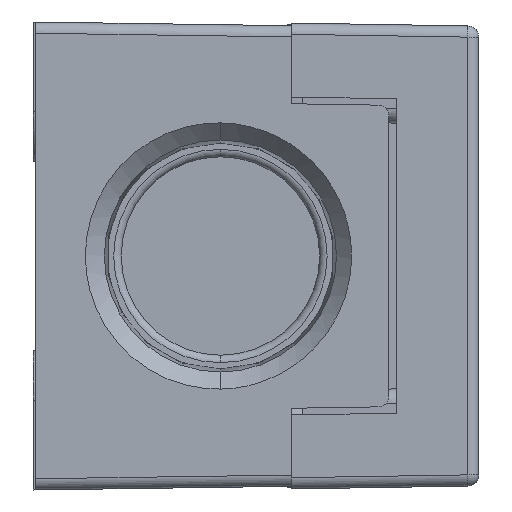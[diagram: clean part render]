
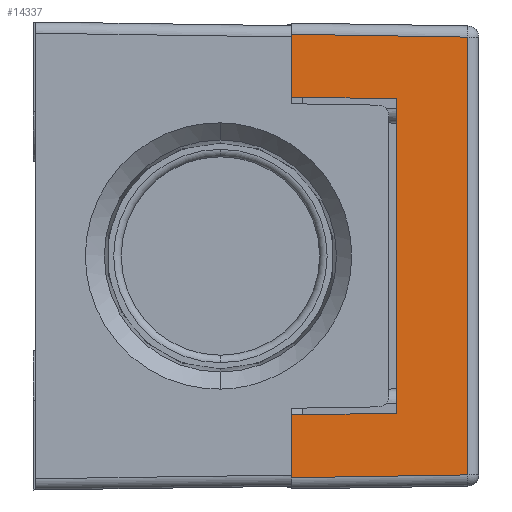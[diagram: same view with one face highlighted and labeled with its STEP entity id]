
A CAD part, front view. The second image highlights one B-rep face of the part: STEP entity #14337.
In plain terms, the highlighted planar face has unit normal (0.016, -1, 0).
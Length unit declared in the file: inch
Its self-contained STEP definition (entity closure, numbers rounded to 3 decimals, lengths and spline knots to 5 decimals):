
#533=DIRECTION('',(0.,0.,1.));
#534=VECTOR('',#533,0.2515);
#535=CARTESIAN_POINT('',(0.19,-3.68572,-0.88823));
#536=LINE('',#535,#534);
#2567=DIRECTION('',(0.,0.,1.));
#2568=VECTOR('',#2567,1.75386);
#2569=CARTESIAN_POINT('',(0.89572,-3.67442,
-0.87693));
#2570=LINE('',#2569,#2568);
#2576=DIRECTION('',(1.,0.016,0.016));
#2577=VECTOR('',#2576,0.7059);
#2578=CARTESIAN_POINT('',(0.19,-3.68572,-0.88823));
#2579=LINE('',#2578,#2577);
#2599=DIRECTION('',(0.,0.,-1.));
#2600=VECTOR('',#2599,1.26);
#2601=CARTESIAN_POINT('',(0.61,-3.679,0.63));
#2602=LINE('',#2601,#2600);
#2612=DIRECTION('',(-1.,-0.016,0.016));
#2613=VECTOR('',#2612,0.7059);
#2614=CARTESIAN_POINT('',(0.89572,-3.67442,
0.87693));
#2615=LINE('',#2614,#2613);
#2638=DIRECTION('',(0.,0.,1.));
#2639=VECTOR('',#2638,0.2515);
#2640=CARTESIAN_POINT('',(0.19,-3.68572,0.63672));
#2641=LINE('',#2640,#2639);
#2672=DIRECTION('',(1.,0.016,-0.016));
#2673=VECTOR('',#2672,0.42011);
#2674=CARTESIAN_POINT('',(0.19,-3.68572,0.63672));
#2675=LINE('',#2674,#2673);
#3200=DIRECTION('',(-1.,-0.016,-0.016));
#3201=VECTOR('',#3200,0.42011);
#3202=CARTESIAN_POINT('',(0.61,-3.679,-0.63));
#3203=LINE('',#3202,#3201);
#10425=CARTESIAN_POINT('',(0.61,-3.679,0.63));
#10426=CARTESIAN_POINT('',(0.61,-3.679,-0.63));
#10427=VERTEX_POINT('',#10425);
#10428=VERTEX_POINT('',#10426);
#10431=CARTESIAN_POINT('',(0.19,-3.68572,0.63672));
#10432=VERTEX_POINT('',#10431);
#10433=CARTESIAN_POINT('',(0.19,-3.68572,-0.63672));
#10434=VERTEX_POINT('',#10433);
#10492=CARTESIAN_POINT('',(0.89572,-3.67442,
0.87693));
#10493=CARTESIAN_POINT('',(0.19,-3.68572,0.88823));
#10494=VERTEX_POINT('',#10492);
#10495=VERTEX_POINT('',#10493);
#10496=CARTESIAN_POINT('',(0.89572,-3.67442,
-0.87693));
#10497=VERTEX_POINT('',#10496);
#10498=CARTESIAN_POINT('',(0.19,-3.68572,-0.88823));
#10499=VERTEX_POINT('',#10498);
#14317=CARTESIAN_POINT('',(0.235,-3.685,0.98678));
#14318=DIRECTION('',(0.016,-1.,0.));
#14319=DIRECTION('',(0.,0.,1.));
#14320=AXIS2_PLACEMENT_3D('',#14317,#14318,#14319);
#14321=PLANE('',#14320);
#14323=ORIENTED_EDGE('',*,*,#14322,.F.);
#14324=ORIENTED_EDGE('',*,*,#14286,.F.);
#14325=ORIENTED_EDGE('',*,*,#14309,.F.);
#14326=ORIENTED_EDGE('',*,*,#11973,.T.);
#14328=ORIENTED_EDGE('',*,*,#14327,.F.);
#14330=ORIENTED_EDGE('',*,*,#14329,.F.);
#14332=ORIENTED_EDGE('',*,*,#14331,.F.);
#14334=ORIENTED_EDGE('',*,*,#14333,.T.);
#14335=EDGE_LOOP('',(#14323,#14324,#14325,#14326,#14328,#14330,#14332,#14334));
#14336=FACE_OUTER_BOUND('',#14335,.F.);
#14337=ADVANCED_FACE('',(#14336),#14321,.T.);
#11973=EDGE_CURVE('',#10499,#10434,#536,.T.);
#14286=EDGE_CURVE('',#10497,#10494,#2570,.T.);
#14309=EDGE_CURVE('',#10499,#10497,#2579,.T.);
#14322=EDGE_CURVE('',#10494,#10495,#2615,.T.);
#14327=EDGE_CURVE('',#10428,#10434,#3203,.T.);
#14329=EDGE_CURVE('',#10427,#10428,#2602,.T.);
#14331=EDGE_CURVE('',#10432,#10427,#2675,.T.);
#14333=EDGE_CURVE('',#10432,#10495,#2641,.T.);
